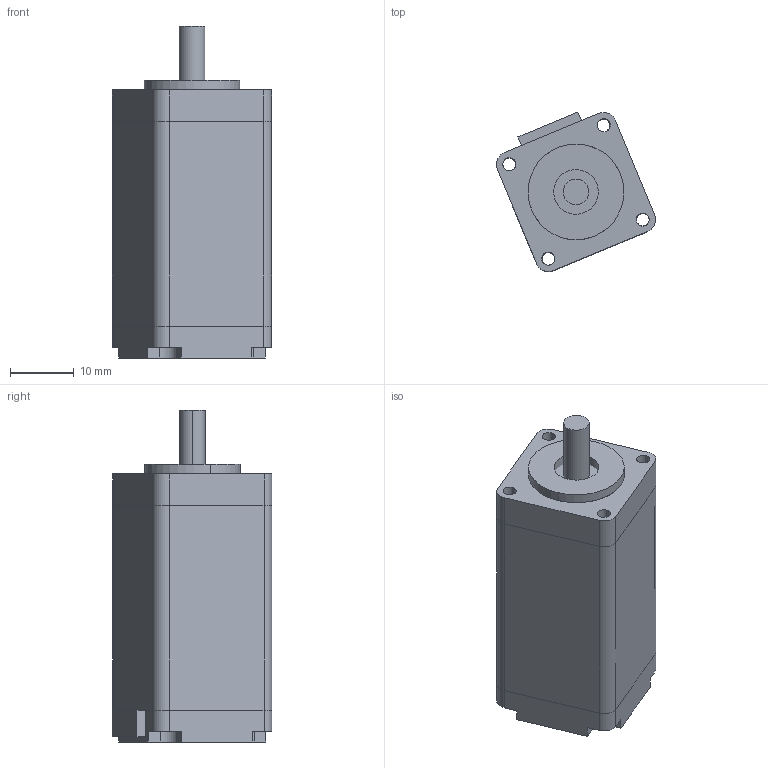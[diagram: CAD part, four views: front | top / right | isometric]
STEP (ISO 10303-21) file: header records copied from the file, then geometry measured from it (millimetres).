
FILE_DESCRIPTION (( 'STEP AP214' ), '1' );
FILE_NAME ('20HS42-0804.STEP', '2020-10-07T06:44:39', ( 'user' ), ( 'CHINA' ), 'SwSTEP 2.0', 'SolidWorks 2016', '' );
FILE_SCHEMA (( 'AUTOMOTIVE_DESIGN' ));
Length unit declared in the file: millimetre
Products named in the file (5): 20隅赽H32; 20ヶ傷裔; 20綴傷裔; 4｡ﾁ10; 20HS42-0804
Assembly tree (4 placements, depth 2):
  20HS42-0804
    4｡ﾁ10
    20綴傷裔
    20ヶ傷裔
    20隅赽H32
Bounding box: 24.9 x 25.02 x 52 mm (x, y, z)
Volume: 16427.7 mm3; surface area: 7240.3 mm2
Topology: 4 solids, 4 shells, 87 faces, 228 edges, 152 vertices
Faces by surface type: cylinder 48, plane 39
Entity records: 3056 total; most frequent: DIRECTION 512, CARTESIAN_POINT 474, ORIENTED_EDGE 456, EDGE_CURVE 228, AXIS2_PLACEMENT_3D 190, VERTEX_POINT 152, VECTOR 132, LINE 132
